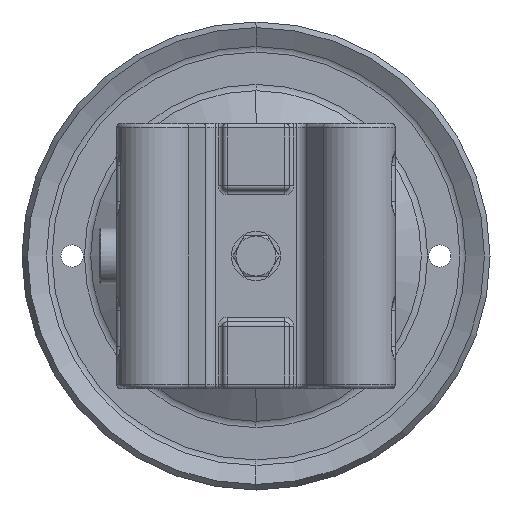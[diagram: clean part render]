
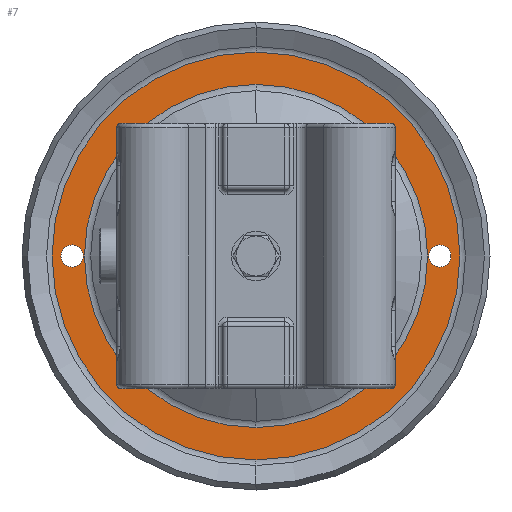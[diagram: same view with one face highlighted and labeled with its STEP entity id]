
A CAD part, front view. The second image highlights one B-rep face of the part: STEP entity #7.
In plain terms, the highlighted planar face has unit normal (0, -1, 0).
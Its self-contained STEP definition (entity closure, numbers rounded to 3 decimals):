
#7 = ADVANCED_FACE ( 'NONE', ( #8992, #5393, #9967, #1560 ), #2539, .F. ) ;
#278 = CARTESIAN_POINT ( 'NONE',  ( 0., 411., 0. ) ) ;
#454 = DIRECTION ( 'NONE',  ( 0., -1., 0. ) ) ;
#482 = AXIS2_PLACEMENT_3D ( 'NONE', #3476, #6272, #5048 ) ;
#576 = CARTESIAN_POINT ( 'NONE',  ( -77., 411., 0. ) ) ;
#708 = VERTEX_POINT ( 'NONE', #11465 ) ;
#823 = ORIENTED_EDGE ( 'NONE', *, *, #4698, .F. ) ;
#898 = CARTESIAN_POINT ( 'NONE',  ( 0., 411., 0. ) ) ;
#1042 = DIRECTION ( 'NONE',  ( 0., -1., 0. ) ) ;
#1560 = FACE_BOUND ( 'NONE', #2585, .T. ) ;
#1583 = CIRCLE ( 'NONE', #8835, 91.5 ) ;
#2139 = CARTESIAN_POINT ( 'NONE',  ( 82.5, 411., -5. ) ) ;
#2142 = ORIENTED_EDGE ( 'NONE', *, *, #9237, .F. ) ;
#2539 = PLANE ( 'NONE',  #11063 ) ;
#2585 = EDGE_LOOP ( 'NONE', ( #7651, #9462 ) ) ;
#2841 = CIRCLE ( 'NONE', #12049, 91.5 ) ;
#2902 = EDGE_CURVE ( 'NONE', #708, #10825, #1583, .T. ) ;
#3056 = DIRECTION ( 'NONE',  ( 0., -1., 0. ) ) ;
#3401 = DIRECTION ( 'NONE',  ( 0., 1., 0. ) ) ;
#3476 = CARTESIAN_POINT ( 'NONE',  ( -82.5, 411., 0. ) ) ;
#3482 = DIRECTION ( 'NONE',  ( 0., -1., 0. ) ) ;
#3686 = CARTESIAN_POINT ( 'NONE',  ( -82.5, 411., 5. ) ) ;
#3687 = CARTESIAN_POINT ( 'NONE',  ( 82.5, 411., 0. ) ) ;
#3788 = DIRECTION ( 'NONE',  ( 0., -1., 0. ) ) ;
#3986 = EDGE_LOOP ( 'NONE', ( #10259, #2142 ) ) ;
#3995 = CARTESIAN_POINT ( 'NONE',  ( 0., 411., -91.5 ) ) ;
#4458 = EDGE_LOOP ( 'NONE', ( #10110, #8148 ) ) ;
#4641 = DIRECTION ( 'NONE',  ( 0., 0., -1. ) ) ;
#4698 = EDGE_CURVE ( 'NONE', #12112, #5681, #6430, .T. ) ;
#4818 = CIRCLE ( 'NONE', #482, 5. ) ;
#4839 = VERTEX_POINT ( 'NONE', #5767 ) ;
#5048 = DIRECTION ( 'NONE',  ( 0., 0., -1. ) ) ;
#5296 = EDGE_CURVE ( 'NONE', #5681, #12112, #5595, .T. ) ;
#5393 = FACE_OUTER_BOUND ( 'NONE', #4458, .T. ) ;
#5460 = DIRECTION ( 'NONE',  ( 0., -1., 0. ) ) ;
#5573 = AXIS2_PLACEMENT_3D ( 'NONE', #11145, #3482, #8217 ) ;
#5595 = CIRCLE ( 'NONE', #6978, 77. ) ;
#5681 = VERTEX_POINT ( 'NONE', #6328 ) ;
#5766 = CIRCLE ( 'NONE', #5573, 5. ) ;
#5767 = CARTESIAN_POINT ( 'NONE',  ( -82.5, 411., -5. ) ) ;
#5967 = DIRECTION ( 'NONE',  ( 0., 0., 1. ) ) ;
#6100 = EDGE_CURVE ( 'NONE', #7783, #11992, #11836, .T. ) ;
#6223 = CIRCLE ( 'NONE', #7378, 5. ) ;
#6272 = DIRECTION ( 'NONE',  ( 0., -1., 0. ) ) ;
#6328 = CARTESIAN_POINT ( 'NONE',  ( 0., 411., -77. ) ) ;
#6430 = CIRCLE ( 'NONE', #7541, 77. ) ;
#6526 = CARTESIAN_POINT ( 'NONE',  ( 0., 411., 77. ) ) ;
#6978 = AXIS2_PLACEMENT_3D ( 'NONE', #11460, #3056, #5967 ) ;
#7070 = DIRECTION ( 'NONE',  ( 0., 0., 1. ) ) ;
#7178 = DIRECTION ( 'NONE',  ( 0., 0., -1. ) ) ;
#7237 = ORIENTED_EDGE ( 'NONE', *, *, #5296, .F. ) ;
#7378 = AXIS2_PLACEMENT_3D ( 'NONE', #7411, #1042, #4641 ) ;
#7411 = CARTESIAN_POINT ( 'NONE',  ( -82.5, 411., 0. ) ) ;
#7541 = AXIS2_PLACEMENT_3D ( 'NONE', #898, #3788, #7909 ) ;
#7651 = ORIENTED_EDGE ( 'NONE', *, *, #6100, .F. ) ;
#7783 = VERTEX_POINT ( 'NONE', #8996 ) ;
#7909 = DIRECTION ( 'NONE',  ( 0., 0., 1. ) ) ;
#8148 = ORIENTED_EDGE ( 'NONE', *, *, #9119, .T. ) ;
#8217 = DIRECTION ( 'NONE',  ( 0., 0., -1. ) ) ;
#8543 = EDGE_LOOP ( 'NONE', ( #823, #7237 ) ) ;
#8835 = AXIS2_PLACEMENT_3D ( 'NONE', #10783, #454, #7070 ) ;
#8992 = FACE_BOUND ( 'NONE', #8543, .T. ) ;
#8996 = CARTESIAN_POINT ( 'NONE',  ( 82.5, 411., 5. ) ) ;
#9119 = EDGE_CURVE ( 'NONE', #10825, #708, #2841, .T. ) ;
#9164 = DIRECTION ( 'NONE',  ( 0., 0., -1. ) ) ;
#9237 = EDGE_CURVE ( 'NONE', #4839, #10771, #4818, .T. ) ;
#9462 = ORIENTED_EDGE ( 'NONE', *, *, #11533, .F. ) ;
#9474 = EDGE_CURVE ( 'NONE', #10771, #4839, #6223, .T. ) ;
#9967 = FACE_BOUND ( 'NONE', #3986, .T. ) ;
#10110 = ORIENTED_EDGE ( 'NONE', *, *, #2902, .T. ) ;
#10259 = ORIENTED_EDGE ( 'NONE', *, *, #9474, .F. ) ;
#10354 = DIRECTION ( 'NONE',  ( 0., -1., 0. ) ) ;
#10443 = AXIS2_PLACEMENT_3D ( 'NONE', #3687, #5460, #9164 ) ;
#10771 = VERTEX_POINT ( 'NONE', #3686 ) ;
#10783 = CARTESIAN_POINT ( 'NONE',  ( 0., 411., 0. ) ) ;
#10825 = VERTEX_POINT ( 'NONE', #3995 ) ;
#11063 = AXIS2_PLACEMENT_3D ( 'NONE', #576, #3401, #7178 ) ;
#11145 = CARTESIAN_POINT ( 'NONE',  ( 82.5, 411., 0. ) ) ;
#11455 = DIRECTION ( 'NONE',  ( 0., 0., 1. ) ) ;
#11460 = CARTESIAN_POINT ( 'NONE',  ( 0., 411., 0. ) ) ;
#11465 = CARTESIAN_POINT ( 'NONE',  ( 0., 411., 91.5 ) ) ;
#11533 = EDGE_CURVE ( 'NONE', #11992, #7783, #5766, .T. ) ;
#11836 = CIRCLE ( 'NONE', #10443, 5. ) ;
#11992 = VERTEX_POINT ( 'NONE', #2139 ) ;
#12049 = AXIS2_PLACEMENT_3D ( 'NONE', #278, #10354, #11455 ) ;
#12112 = VERTEX_POINT ( 'NONE', #6526 ) ;
